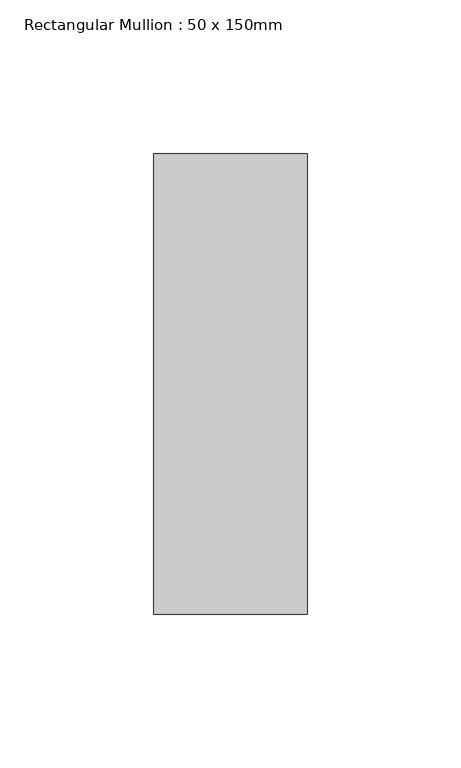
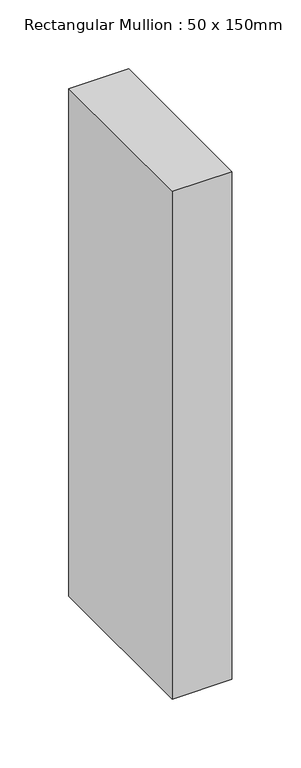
"""IFC4 building model written with IfcOpenShell, lengths in millimetres: member geometry, Rectangular Mullion : 50 x 150mm."""

from ifc_helpers import new_model, si_unit, frame, origin, place, context, project, spatial, polyline, outline, extrude, source, transform, mapped, element, save


def rectangular_mullion_50_x_150mm_3a67f67c(model_context):
    return source(origin(), model_context, "Body", "SweptSolid", [
        extrude(outline(polyline([(0.0, 75.0), (0.0, -75.0), (-50.0, -75.0), (-50.0, 75.0), (0.0, 75.0)])), frame((0.0, 0.0, -450.0000002), z_axis=(0.0, 0.0, 1.0), x_axis=(1.0, 0.0, 0.0)), (0.0, 0.0, 1.0), 450.0000002),
    ])


if __name__ == "__main__":
    model = new_model("IFC4")
    model_context = context("Model", 3, world=origin())
    ifc_project = project(units=[si_unit("LENGTHUNIT", "METRE", prefix="MILLI")], contexts=[model_context])
    site = spatial("IfcSite", under=ifc_project)
    building = spatial("IfcBuilding", under=site)
    placement = place(None, origin())
    rectangular_mullion_50_x_150mm_shape = rectangular_mullion_50_x_150mm_3a67f67c(model_context)
    element("IfcMember", 1, ObjectType="Rectangular Mullion : 50 x 150mm", at=placement, inside=building, context=model_context, shape_type="MappedRepresentation", body=[
        mapped(rectangular_mullion_50_x_150mm_shape, transform((0.0, 0.0, 0.0), x_axis=(1.0, 0.0, 0.0), y_axis=(0.0, 1.0, 0.0), z_axis=(0.0, 0.0, 1.0))),
    ])
    save(model, "model.ifc")
